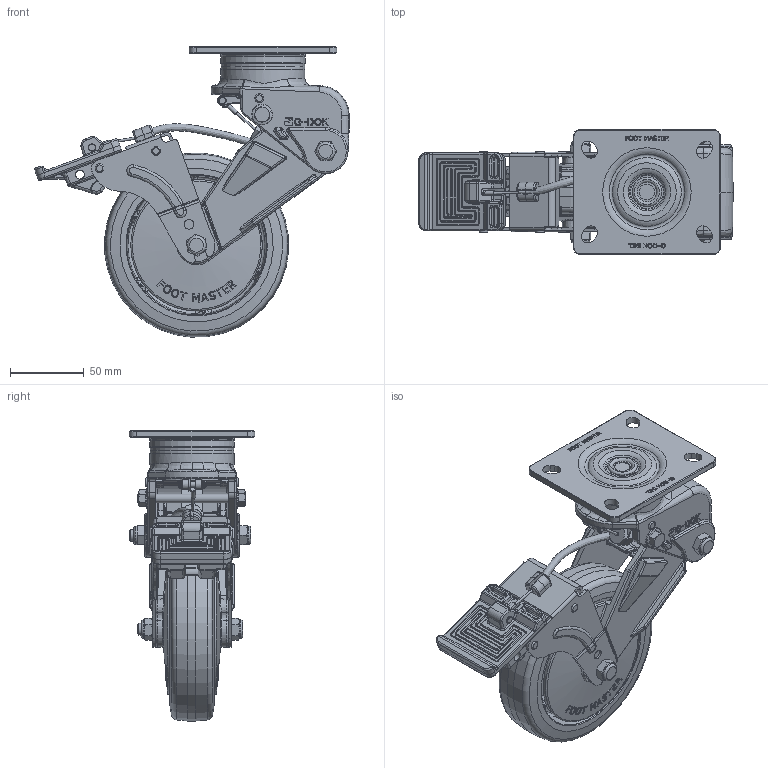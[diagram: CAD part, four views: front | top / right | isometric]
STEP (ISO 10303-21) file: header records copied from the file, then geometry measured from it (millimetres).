
FILE_DESCRIPTION(/* description */ (''),/* implementation_level */ '2;1');
FILE_NAME(/* name */ 'Z:\1.기술연구소\1.도면\제품도면\1.양산품\34.GDSB-SERIES\2.GDSB-125\1.진행도면\3.3D_홈페이지용 내부 간략화\내부 간략화\홈페이지 3D 도면\GDSB-125-BSF-LUD-PEU.stp',/* time_stamp */ '2022-08-20T10:30:54+09:00',/* author */ ('admin'),/* organization */ (''),/* preprocessor_version */ 'ST-DEVELOPER v18.1',/* originating_system */ 'Autodesk Inventor 2021',/* authorisation */ '');
FILE_SCHEMA (('AUTOMOTIVE_DESIGN { 1 0 10303 214 3 1 1 }','INTEGRATED_CNC_SCHEMA'));
Products named in the file (1): GDSB-125-BSF-LUD-PEU
Bounding box: 213.2 x 85 x 196.81 mm (x, y, z)
Volume: 518696.9 mm3; surface area: 199675.3 mm2
Topology: 1 solids, 5 shells, 4351 faces, 10807 edges, 6500 vertices
Faces by surface type: plane 1468, bspline 1285, cylinder 1041, torus 270, cone 215, sphere 72
Full cylindrical faces by diameter (mm): 1.6 x5, 1.8 x1, 2 x2, 2.5 x1, 2.9 x4, 3 x3, 3.1 x6, 3.2 x2, 4 x7, 4.2 x7, 5 x4, 5.1 x1, 6 x9, 6.2 x2, 6.5 x2, 7.4 x1, 7.95 x5, 8 x2, 8.2 x2, 9.95 x1, 10.2 x4, 10.7 x2, 11.6 x2, 12.5 x4, 14 x2, 20 x2, 56.483 x2, 57 x1, 125 x1
Entity records: 187643 total; most frequent: CARTESIAN_POINT 85765, ORIENTED_EDGE 21428, DIRECTION 18899, EDGE_CURVE 10714, AXIS2_PLACEMENT_3D 7199, VERTEX_POINT 6500, EDGE_LOOP 4579, LINE 4501
